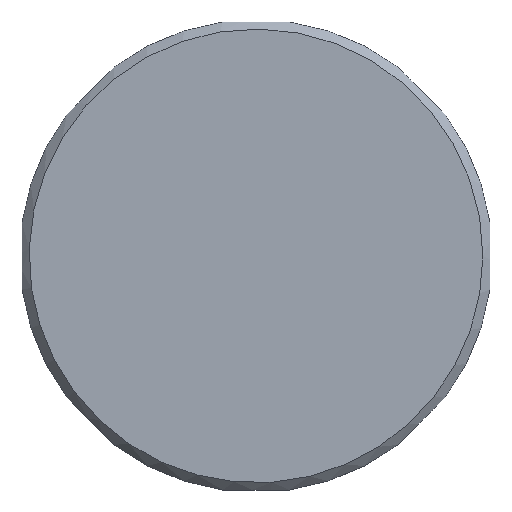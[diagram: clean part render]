
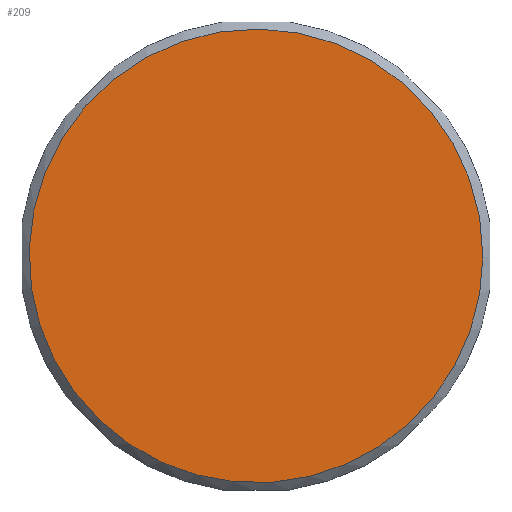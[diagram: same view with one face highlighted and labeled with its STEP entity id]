
A CAD part, top view. The second image highlights one B-rep face of the part: STEP entity #209.
In plain terms, the highlighted planar face has unit normal (0, 0, 1).
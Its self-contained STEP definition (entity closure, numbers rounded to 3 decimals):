
#209=ADVANCED_FACE('',(#280),#236,.T.);
#236=PLANE('',#1119);
#280=FACE_OUTER_BOUND('',#346,.T.);
#346=EDGE_LOOP('',(#724));
#724=ORIENTED_EDGE('',*,*,#942,.T.);
#813=VERTEX_POINT('',#1706);
#942=EDGE_CURVE('',#813,#813,#1003,.T.);
#1003=CIRCLE('',#1117,48.);
#1117=AXIS2_PLACEMENT_3D('',#1705,#1406,#1407);
#1119=AXIS2_PLACEMENT_3D('',#1708,#1410,#1411);
#1406=DIRECTION('',(0.,0.,1.));
#1407=DIRECTION('',(1.,0.,0.));
#1410=DIRECTION('',(0.,0.,1.));
#1411=DIRECTION('',(1.,0.,0.));
#1705=CARTESIAN_POINT('',(0.,0.,15.));
#1706=CARTESIAN_POINT('',(48.,0.,15.));
#1708=CARTESIAN_POINT('',(0.,0.,15.));
